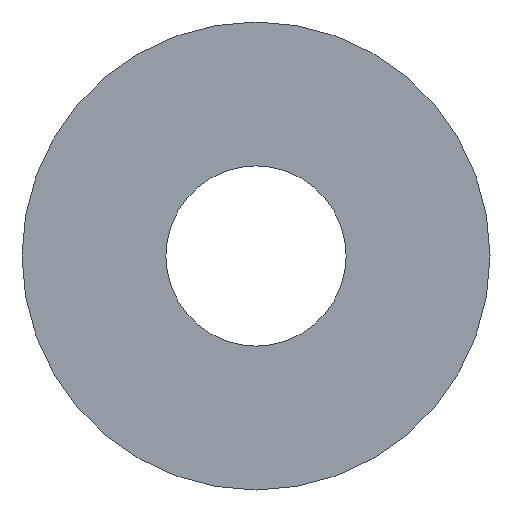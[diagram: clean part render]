
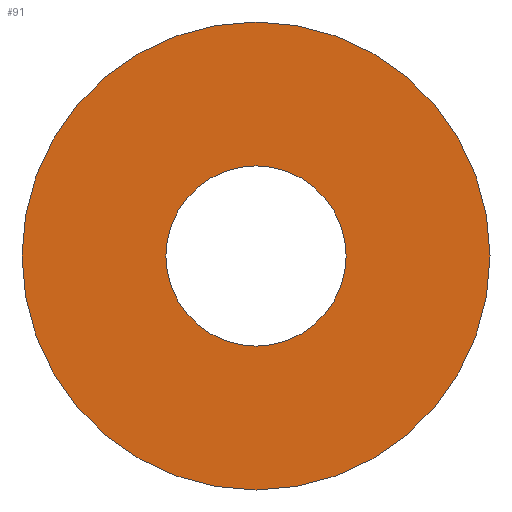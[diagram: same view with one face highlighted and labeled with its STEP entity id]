
A CAD part, front view. The second image highlights one B-rep face of the part: STEP entity #91.
In plain terms, the highlighted planar face has unit normal (0, -1, 0).
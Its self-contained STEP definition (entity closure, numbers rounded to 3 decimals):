
#1 = DIRECTION ( 'NONE',  ( 0., 1., 0. ) ) ;
#2 = DIRECTION ( 'NONE',  ( 0., 0., 1. ) ) ;
#5 = DIRECTION ( 'NONE',  ( 0., 1., 0. ) ) ;
#7 = DIRECTION ( 'NONE',  ( 0., 0., 1. ) ) ;
#8 = EDGE_CURVE ( 'NONE', #34, #172, #50, .T. ) ;
#17 = AXIS2_PLACEMENT_3D ( 'NONE', #221, #5, #45 ) ;
#20 = DIRECTION ( 'NONE',  ( 0., 1., 0. ) ) ;
#23 = ORIENTED_EDGE ( 'NONE', *, *, #178, .F. ) ;
#27 = AXIS2_PLACEMENT_3D ( 'NONE', #240, #180, #143 ) ;
#32 = ORIENTED_EDGE ( 'NONE', *, *, #214, .T. ) ;
#34 = VERTEX_POINT ( 'NONE', #95 ) ;
#38 = CARTESIAN_POINT ( 'NONE',  ( 0., 0., 0. ) ) ;
#43 = CARTESIAN_POINT ( 'NONE',  ( 0., 0., 106. ) ) ;
#45 = DIRECTION ( 'NONE',  ( 0., 0., 1. ) ) ;
#50 = CIRCLE ( 'NONE', #117, 275.3 ) ;
#54 = PLANE ( 'NONE',  #166 ) ;
#55 = CIRCLE ( 'NONE', #17, 106. ) ;
#58 = DIRECTION ( 'NONE',  ( 0., 0., 1. ) ) ;
#64 = CARTESIAN_POINT ( 'NONE',  ( 0., 0., -106. ) ) ;
#91 = ADVANCED_FACE ( 'NONE', ( #211, #175 ), #54, .F. ) ;
#95 = CARTESIAN_POINT ( 'NONE',  ( 0., 0., -275.3 ) ) ;
#100 = DIRECTION ( 'NONE',  ( 0., 1., 0. ) ) ;
#103 = VERTEX_POINT ( 'NONE', #43 ) ;
#117 = AXIS2_PLACEMENT_3D ( 'NONE', #216, #20, #2 ) ;
#120 = CIRCLE ( 'NONE', #27, 275.3 ) ;
#125 = AXIS2_PLACEMENT_3D ( 'NONE', #220, #100, #7 ) ;
#128 = EDGE_LOOP ( 'NONE', ( #249, #32 ) ) ;
#134 = VERTEX_POINT ( 'NONE', #64 ) ;
#143 = DIRECTION ( 'NONE',  ( 0., 0., 1. ) ) ;
#166 = AXIS2_PLACEMENT_3D ( 'NONE', #38, #1, #58 ) ;
#172 = VERTEX_POINT ( 'NONE', #183 ) ;
#175 = FACE_BOUND ( 'NONE', #128, .T. ) ;
#178 = EDGE_CURVE ( 'NONE', #172, #34, #120, .T. ) ;
#180 = DIRECTION ( 'NONE',  ( 0., 1., 0. ) ) ;
#183 = CARTESIAN_POINT ( 'NONE',  ( 0., 0., 275.3 ) ) ;
#192 = EDGE_LOOP ( 'NONE', ( #199, #23 ) ) ;
#199 = ORIENTED_EDGE ( 'NONE', *, *, #8, .F. ) ;
#211 = FACE_OUTER_BOUND ( 'NONE', #192, .T. ) ;
#214 = EDGE_CURVE ( 'NONE', #103, #134, #55, .T. ) ;
#216 = CARTESIAN_POINT ( 'NONE',  ( 0., 0., 0. ) ) ;
#217 = EDGE_CURVE ( 'NONE', #134, #103, #230, .T. ) ;
#220 = CARTESIAN_POINT ( 'NONE',  ( 0., 0., 0. ) ) ;
#221 = CARTESIAN_POINT ( 'NONE',  ( 0., 0., 0. ) ) ;
#230 = CIRCLE ( 'NONE', #125, 106. ) ;
#240 = CARTESIAN_POINT ( 'NONE',  ( 0., 0., 0. ) ) ;
#249 = ORIENTED_EDGE ( 'NONE', *, *, #217, .T. ) ;
